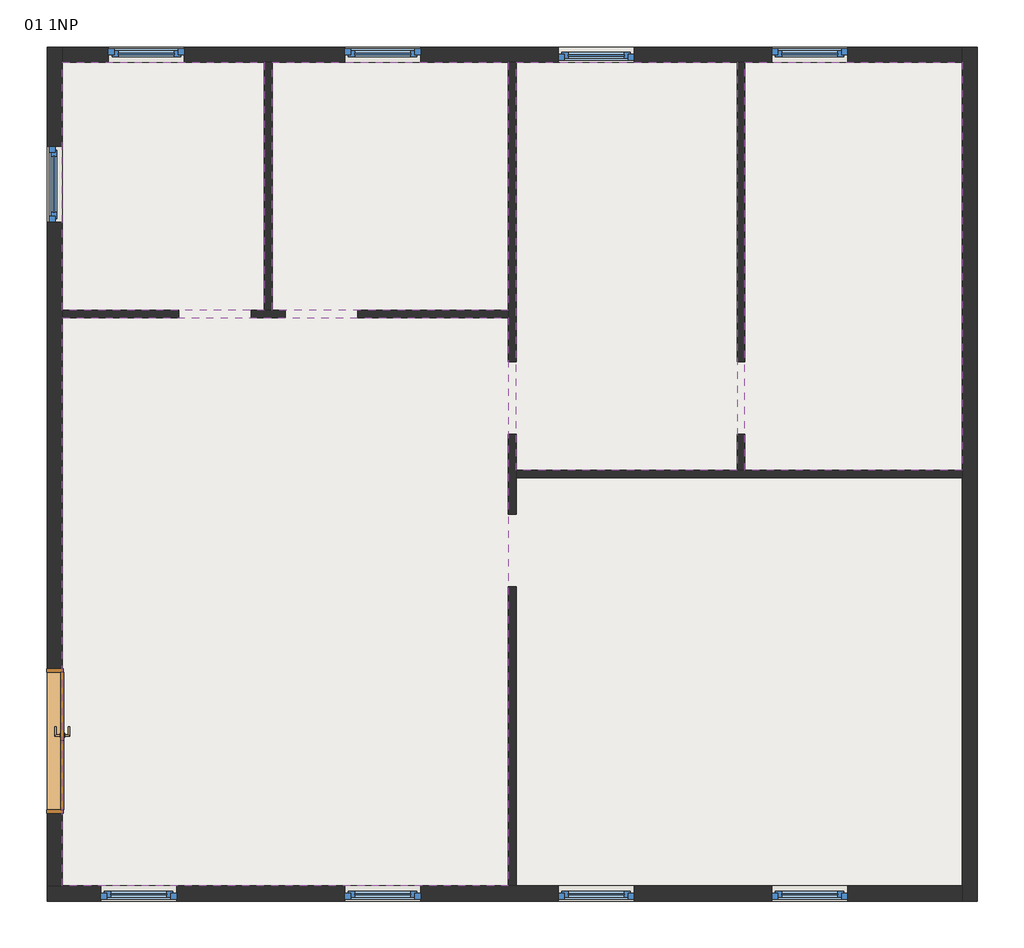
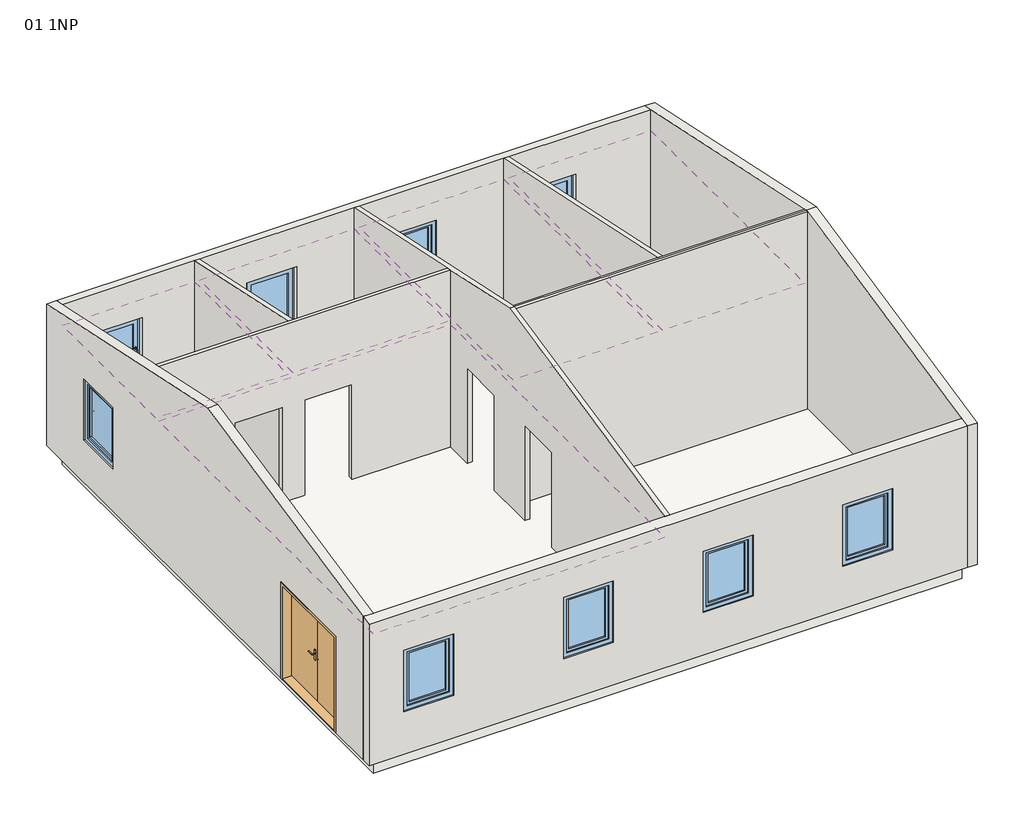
# One storey, incomplete: 9 walls, 9 windows, 6 coverings, 1 door, 1 slab.
"""IFC4 building model written with IfcOpenShell, lengths in millimetres."""

from ifc_helpers import new_model, si_unit, frame, origin, place, context, project, spatial, polyline, outline, extrude, faceted_brep, transform, mapped, element, save
from components import door_1800_x_2000_ad4d3441, window_1000x1300_1b3cc697, window_1000x1300_da663b31

model = new_model("IFC4")

# Units and contexts
model_context = context("Model", 3, world=origin())
ifc_project = project(units=[si_unit("LENGTHUNIT", "METRE", prefix="MILLI")], contexts=[model_context])

# Site, building, storey
site = spatial("IfcSite", under=ifc_project)
building = spatial("IfcBuilding", under=site)
storey = spatial("IfcBuildingStorey", under=building, Name="01 1NP", Elevation=0.0)

# Coverings
placement = place(None, origin())
element("IfcCovering", 1, ObjectType="Strop 1", at=placement, inside=storey, context=model_context, shape_type="SweptSolid", body=[
    extrude(outline(polyline([(33646.7666006, 15422.9392228), (30996.7666006, 15422.9392228), (30996.7666006, 18672.9392228), (33646.7666006, 18672.9392228), (33646.7666006, 15422.9392228)])), frame((0.0, 0.0, 2600.0), z_axis=(0.0, 0.0, 1.0), x_axis=(1.0, 0.0, 0.0)), (0.0, 0.0, 1.0), 100.0),
])
element("IfcCovering", 2, ObjectType="Strop 1", at=placement, inside=storey, context=model_context, shape_type="SweptSolid", body=[
    extrude(outline(polyline([(33646.7666006, 15422.9392228), (30996.7666006, 15422.9392228), (30996.7666006, 18672.9392228), (33646.7666006, 18672.9392228), (33646.7666006, 15422.9392228)])), frame((0.0, 0.0, 2600.0), z_axis=(0.0, 0.0, 1.0), x_axis=(1.0, 0.0, 0.0)), (0.0, 0.0, 1.0), 100.0),
])
element("IfcCovering", 3, ObjectType="Strop 1", at=placement, inside=storey, context=model_context, shape_type="SweptSolid", body=[
    extrude(outline(polyline([(33746.7666006, 15422.9392228), (33746.7666006, 18672.9392228), (36846.7666006, 18672.9392228), (36846.7666006, 15422.9392228), (33746.7666006, 15422.9392228)])), frame((0.0, 0.0, 2600.0), z_axis=(0.0, 0.0, 1.0), x_axis=(1.0, 0.0, 0.0)), (0.0, 0.0, 1.0), 100.0),
])
element("IfcCovering", 4, ObjectType="Strop 1", at=placement, inside=storey, context=model_context, shape_type="SweptSolid", body=[
    extrude(outline(polyline([(36946.7666006, 18672.9392228), (39846.7666006, 18672.9392228), (39846.7666006, 13322.9392228), (36946.7666006, 13322.9392228), (36946.7666006, 18672.9392228)])), frame((0.0, 0.0, 2600.0), z_axis=(0.0, 0.0, 1.0), x_axis=(1.0, 0.0, 0.0)), (0.0, 0.0, 1.0), 100.0),
])
element("IfcCovering", 5, ObjectType="Strop 1", at=placement, inside=storey, context=model_context, shape_type="SweptSolid", body=[
    extrude(outline(polyline([(39946.7666006, 18672.9392228), (42796.7666006, 18672.9392228), (42796.7666006, 13322.9392228), (39946.7666006, 13322.9392228), (39946.7666006, 18672.9392228)])), frame((0.0, 0.0, 2600.0), z_axis=(0.0, 0.0, 1.0), x_axis=(1.0, 0.0, 0.0)), (0.0, 0.0, 1.0), 100.0),
])
element("IfcCovering", 6, ObjectType="Strop 1", at=placement, inside=storey, context=model_context, shape_type="SweptSolid", body=[
    extrude(outline(polyline([(36846.7666006, 15322.9392228), (36846.7666006, 7872.9392228), (30996.7666006, 7872.9392228), (30996.7666006, 15322.9392228), (36846.7666006, 15322.9392228)])), frame((0.0, 0.0, 2600.0), z_axis=(0.0, 0.0, 1.0), x_axis=(1.0, 0.0, 0.0)), (0.0, 0.0, 1.0), 100.0),
])

# Door
door_1800_x_2000_shape = door_1800_x_2000_ad4d3441(model_context)
element("IfcDoor", 7, ObjectType="Dvoukridle oboustrana zaruben : 1800 x 2000", at=placement, inside=storey, context=model_context, shape_type="MappedRepresentation", body=[
    mapped(door_1800_x_2000_shape, transform((30896.7666006, 9752.9392228, 0.0), x_axis=(0.0, -1.0, 0.0), y_axis=(1.0, 0.0, 0.0), z_axis=(0.0, 0.0, 1.0))),
])

# Slab
element("IfcSlab", 8, ObjectType="Základová deska", at=placement, inside=storey, context=model_context, shape_type="SweptSolid", body=[
    extrude(outline(polyline([(30996.7666006, 7872.9392228), (30996.7666006, 18672.9392228), (42796.7666006, 18672.9392228), (42796.7666006, 7872.9392228), (30996.7666006, 7872.9392228)])), frame((0.0, 0.0, -350.0), z_axis=(0.0, 0.0, 1.0), x_axis=(1.0, 0.0, 0.0)), (0.0, 0.0, 1.0), 350.0),
])

# Walls
element("IfcWall", 9, ObjectType="Standardní 200mm", at=placement, inside=storey, context=model_context, shape_type="Brep", body=[
    faceted_brep([(30796.7666006, 7672.9392228, 0.0), (42796.7666006, 7672.9392228, 0.0), (42796.7666006, 7672.9392228, 3000.0), (30796.7666006, 7672.9392228, 3000.0), (31496.7666006, 7672.9392228, 2200.0), (32496.7666006, 7672.9392228, 2200.0), (32496.7666006, 7672.9392228, 900.0), (31496.7666006, 7672.9392228, 900.0), (35696.7666006, 7672.9392228, 900.0), (34696.7666006, 7672.9392228, 900.0), (34696.7666006, 7672.9392228, 2200.0), (35696.7666006, 7672.9392228, 2200.0), (38496.7666006, 7672.9392228, 900.0), (37496.7666006, 7672.9392228, 900.0), (37496.7666006, 7672.9392228, 2200.0), (38496.7666006, 7672.9392228, 2200.0), (41296.7666006, 7672.9392228, 900.0), (40296.7666006, 7672.9392228, 900.0), (40296.7666006, 7672.9392228, 2200.0), (41296.7666006, 7672.9392228, 2200.0), (42796.7666006, 7872.9392228, 0.0), (36946.7666006, 7872.9392228, 0.0), (36846.7666006, 7872.9392228, 0.0), (30996.7666006, 7872.9392228, 0.0), (30796.7666006, 7872.9392228, 0.0), (30796.7666006, 7872.9392228, 3042.5113123), (30996.7666006, 7872.9392228, 3042.5113123), (36846.7666006, 7872.9392228, 3042.5113123), (36946.7666006, 7872.9392228, 3042.5113123), (42796.7666006, 7872.9392228, 3042.5113123), (32496.7666006, 7872.9392228, 2200.0), (31496.7666006, 7872.9392228, 2200.0), (31496.7666006, 7872.9392228, 900.0), (32496.7666006, 7872.9392228, 900.0), (35696.7666006, 7872.9392228, 900.0), (35696.7666006, 7872.9392228, 2200.0), (34696.7666006, 7872.9392228, 2200.0), (34696.7666006, 7872.9392228, 900.0), (38496.7666006, 7872.9392228, 900.0), (38496.7666006, 7872.9392228, 2200.0), (37496.7666006, 7872.9392228, 2200.0), (37496.7666006, 7872.9392228, 900.0), (41296.7666006, 7872.9392228, 900.0), (41296.7666006, 7872.9392228, 2200.0), (40296.7666006, 7872.9392228, 2200.0), (40296.7666006, 7872.9392228, 900.0)], [[[0, 1, 2, 3], [4, 5, 6, 7], [8, 9, 10, 11], [12, 13, 14, 15], [16, 17, 18, 19]], [[20, 21, 22, 23, 24, 25, 26, 27, 28, 29], [30, 31, 32, 33], [34, 35, 36, 37], [38, 39, 40, 41], [42, 43, 44, 45]], [[1, 0, 24, 23, 22, 21, 20]], [[0, 3, 25, 24]], [[2, 1, 20, 29]], [[3, 2, 29, 28, 27, 26, 25]], [[31, 4, 7, 32]], [[4, 31, 30, 5]], [[5, 30, 33, 6]], [[6, 33, 32, 7]], [[35, 34, 8, 11]], [[36, 35, 11, 10]], [[37, 36, 10, 9]], [[34, 37, 9, 8]], [[39, 38, 12, 15]], [[40, 39, 15, 14]], [[41, 40, 14, 13]], [[38, 41, 13, 12]], [[43, 42, 16, 19]], [[44, 43, 19, 18]], [[45, 44, 18, 17]], [[42, 45, 17, 16]]]),
])
element("IfcWall", 10, ObjectType="Standardní 200mm", at=placement, inside=storey, context=model_context, shape_type="Brep", body=[
    faceted_brep([(30796.7666006, 8822.9392228, 2050.0), (30796.7666006, 8822.9392228, 0.0), (30796.7666006, 7872.9392228, 0.0), (30796.7666006, 7872.9392228, 3042.5113123), (30796.7666006, 13272.9392228, 4190.3167453), (30796.7666006, 18872.9392228, 3000.0), (30796.7666006, 18872.9392228, 0.0), (30796.7666006, 10722.9392228, 0.0), (30796.7666006, 10722.9392228, 2050.0), (30796.7666006, 16572.9392228, 900.0), (30796.7666006, 17572.9392228, 900.0), (30796.7666006, 17572.9392228, 2200.0), (30796.7666006, 16572.9392228, 2200.0), (30996.7666006, 7872.9392228, 0.0), (30996.7666006, 8822.9392228, 0.0), (30996.7666006, 8822.9392228, 2050.0), (30996.7666006, 10722.9392228, 2050.0), (30996.7666006, 10722.9392228, 0.0), (30996.7666006, 15322.9392228, 0.0), (30996.7666006, 15422.9392228, 0.0), (30996.7666006, 18672.9392228, 0.0), (30996.7666006, 18872.9392228, 0.0), (30996.7666006, 18872.9392228, 3000.0), (30996.7666006, 18672.9392228, 3042.5113123), (30996.7666006, 15422.9392228, 3733.3201377), (30996.7666006, 15322.9392228, 3754.5757939), (30996.7666006, 13272.9392228, 4190.3167453), (30996.7666006, 7872.9392228, 3042.5113123), (30996.7666006, 16572.9392228, 900.0), (30996.7666006, 16572.9392228, 2200.0), (30996.7666006, 17572.9392228, 2200.0), (30996.7666006, 17572.9392228, 900.0)], [[[0, 1, 2, 3, 4, 5, 6, 7, 8], [9, 10, 11, 12]], [[13, 14, 15, 16, 17, 18, 19, 20, 21, 22, 23, 24, 25, 26, 27], [28, 29, 30, 31]], [[2, 1, 14, 13]], [[7, 6, 21, 20, 19, 18, 17]], [[6, 5, 22, 21]], [[3, 2, 13, 27]], [[5, 4, 26, 25, 24, 23, 22]], [[4, 3, 27, 26]], [[15, 14, 1, 0]], [[16, 15, 0, 8]], [[17, 16, 8, 7]], [[29, 28, 9, 12]], [[30, 29, 12, 11]], [[31, 30, 11, 10]], [[28, 31, 10, 9]]]),
])
element("IfcWall", 11, ObjectType="Standardní 200mm", at=placement, inside=storey, context=model_context, shape_type="Brep", body=[
    faceted_brep([(42796.7666006, 18872.9392228, 0.0), (30996.7666006, 18872.9392228, 0.0), (30996.7666006, 18872.9392228, 3000.0), (42796.7666006, 18872.9392228, 3000.0), (32596.7666006, 18872.9392228, 2200.0), (31596.7666006, 18872.9392228, 2200.0), (31596.7666006, 18872.9392228, 900.0), (32596.7666006, 18872.9392228, 900.0), (35696.7666006, 18872.9392228, 900.0), (35696.7666006, 18872.9392228, 2200.0), (34696.7666006, 18872.9392228, 2200.0), (34696.7666006, 18872.9392228, 900.0), (38496.7666006, 18872.9392228, 900.0), (38496.7666006, 18872.9392228, 2200.0), (37496.7666006, 18872.9392228, 2200.0), (37496.7666006, 18872.9392228, 900.0), (41296.7666006, 18872.9392228, 900.0), (41296.7666006, 18872.9392228, 2200.0), (40296.7666006, 18872.9392228, 2200.0), (40296.7666006, 18872.9392228, 900.0), (30996.7666006, 18672.9392228, 0.0), (33646.7666006, 18672.9392228, 0.0), (33746.7666006, 18672.9392228, 0.0), (36846.7666006, 18672.9392228, 0.0), (36946.7666006, 18672.9392228, 0.0), (39846.7666006, 18672.9392228, 0.0), (39946.7666006, 18672.9392228, 0.0), (42796.7666006, 18672.9392228, 0.0), (42796.7666006, 18672.9392228, 3042.5113123), (39946.7666006, 18672.9392228, 3042.5113123), (39846.7666006, 18672.9392228, 3042.5113123), (36946.7666006, 18672.9392228, 3042.5113123), (36846.7666006, 18672.9392228, 3042.5113123), (33746.7666006, 18672.9392228, 3042.5113123), (33646.7666006, 18672.9392228, 3042.5113123), (30996.7666006, 18672.9392228, 3042.5113123), (31596.7666006, 18672.9392228, 2200.0), (32596.7666006, 18672.9392228, 2200.0), (32596.7666006, 18672.9392228, 900.0), (31596.7666006, 18672.9392228, 900.0), (35696.7666006, 18672.9392228, 900.0), (34696.7666006, 18672.9392228, 900.0), (34696.7666006, 18672.9392228, 2200.0), (35696.7666006, 18672.9392228, 2200.0), (38496.7666006, 18672.9392228, 900.0), (37496.7666006, 18672.9392228, 900.0), (37496.7666006, 18672.9392228, 2200.0), (38496.7666006, 18672.9392228, 2200.0), (41296.7666006, 18672.9392228, 900.0), (40296.7666006, 18672.9392228, 900.0), (40296.7666006, 18672.9392228, 2200.0), (41296.7666006, 18672.9392228, 2200.0)], [[[0, 1, 2, 3], [4, 5, 6, 7], [8, 9, 10, 11], [12, 13, 14, 15], [16, 17, 18, 19]], [[20, 21, 22, 23, 24, 25, 26, 27, 28, 29, 30, 31, 32, 33, 34, 35], [36, 37, 38, 39], [40, 41, 42, 43], [44, 45, 46, 47], [48, 49, 50, 51]], [[1, 0, 27, 26, 25, 24, 23, 22, 21, 20]], [[2, 1, 20, 35]], [[0, 3, 28, 27]], [[3, 2, 35, 34, 33, 32, 31, 30, 29, 28]], [[5, 36, 39, 6]], [[36, 5, 4, 37]], [[37, 4, 7, 38]], [[38, 7, 6, 39]], [[9, 8, 40, 43]], [[10, 9, 43, 42]], [[11, 10, 42, 41]], [[8, 11, 41, 40]], [[13, 12, 44, 47]], [[14, 13, 47, 46]], [[15, 14, 46, 45]], [[12, 15, 45, 44]], [[17, 16, 48, 51]], [[18, 17, 51, 50]], [[19, 18, 50, 49]], [[16, 19, 49, 48]]]),
])
element("IfcWall", 12, ObjectType="Standardní 200mm", at=placement, inside=storey, context=model_context, shape_type="Brep", body=[
    faceted_brep([(42996.7666006, 7672.9392228, 0.0), (42996.7666006, 18872.9392228, 0.0), (42996.7666006, 18872.9392228, 3000.0), (42996.7666006, 13272.9392228, 4190.3167453), (42996.7666006, 7672.9392228, 3000.0), (42796.7666006, 7672.9392228, 0.0), (42796.7666006, 7672.9392228, 3000.0), (42796.7666006, 7872.9392228, 3042.5113123), (42796.7666006, 13222.9392228, 4179.6889172), (42796.7666006, 13272.9392228, 4190.3167453), (42796.7666006, 13322.9392228, 4179.6889172), (42796.7666006, 18672.9392228, 3042.5113123), (42796.7666006, 18872.9392228, 3000.0), (42796.7666006, 18872.9392228, 0.0), (42796.7666006, 18672.9392228, 0.0), (42796.7666006, 13322.9392228, 0.0), (42796.7666006, 13222.9392228, 0.0), (42796.7666006, 7872.9392228, 0.0)], [[[0, 1, 2, 3, 4]], [[5, 6, 7, 8, 9, 10, 11, 12, 13, 14, 15, 16, 17]], [[1, 0, 5, 17, 16, 15, 14, 13]], [[0, 4, 6, 5]], [[2, 1, 13, 12]], [[4, 3, 9, 8, 7, 6]], [[3, 2, 12, 11, 10, 9]]]),
])
element("IfcWall", 13, ObjectType="Standardní 100mm", at=placement, inside=storey, context=model_context, shape_type="Brep", body=[
    faceted_brep([(36946.7666006, 7872.9392228, 0.0), (36946.7666006, 11797.9392228, 0.0), (36946.7666006, 11797.9392228, 2020.0), (36946.7666006, 12747.9392228, 2020.0), (36946.7666006, 12747.9392228, 0.0), (36946.7666006, 13222.9392228, 0.0), (36946.7666006, 13322.9392228, 0.0), (36946.7666006, 13797.9392228, 0.0), (36946.7666006, 13797.9392228, 2020.0), (36946.7666006, 14747.9392228, 2020.0), (36946.7666006, 14747.9392228, 0.0), (36946.7666006, 18672.9392228, 0.0), (36946.7666006, 18672.9392228, 3042.5113123), (36946.7666006, 13322.9392228, 4179.6889172), (36946.7666006, 13272.9392228, 4190.3167453), (36946.7666006, 13222.9392228, 4179.6889172), (36946.7666006, 7872.9392228, 3042.5113123), (36846.7666006, 11797.9392228, 2020.0), (36846.7666006, 11797.9392228, 0.0), (36846.7666006, 7872.9392228, 0.0), (36846.7666006, 7872.9392228, 3042.5113123), (36846.7666006, 13272.9392228, 4190.3167453), (36846.7666006, 15322.9392228, 3754.5757939), (36846.7666006, 15422.9392228, 3733.3201377), (36846.7666006, 18672.9392228, 3042.5113123), (36846.7666006, 18672.9392228, 0.0), (36846.7666006, 15422.9392228, 0.0), (36846.7666006, 15322.9392228, 0.0), (36846.7666006, 14747.9392228, 0.0), (36846.7666006, 14747.9392228, 2020.0), (36846.7666006, 13797.9392228, 2020.0), (36846.7666006, 13797.9392228, 0.0), (36846.7666006, 12747.9392228, 0.0), (36846.7666006, 12747.9392228, 2020.0)], [[[0, 1, 2, 3, 4, 5, 6, 7, 8, 9, 10, 11, 12, 13, 14, 15, 16]], [[17, 18, 19, 20, 21, 22, 23, 24, 25, 26, 27, 28, 29, 30, 31, 32, 33]], [[11, 10, 28, 27, 26, 25]], [[19, 18, 1, 0]], [[32, 31, 7, 6, 5, 4]], [[0, 16, 20, 19]], [[12, 11, 25, 24]], [[16, 15, 14, 21, 20]], [[14, 13, 12, 24, 23, 22, 21]], [[29, 28, 10, 9]], [[30, 29, 9, 8]], [[31, 30, 8, 7]], [[2, 1, 18, 17]], [[3, 2, 17, 33]], [[4, 3, 33, 32]]]),
])
element("IfcWall", 14, ObjectType="Standardní 100mm", at=placement, inside=storey, context=model_context, shape_type="Brep", body=[
    faceted_brep([(36946.7666006, 13222.9392228, 0.0), (42796.7666006, 13222.9392228, 0.0), (42796.7666006, 13222.9392228, 4179.6889172), (36946.7666006, 13222.9392228, 4179.6889172), (36946.7666006, 13322.9392228, 0.0), (36946.7666006, 13322.9392228, 4179.6889172), (39846.7666006, 13322.9392228, 4179.6889172), (39946.7666006, 13322.9392228, 4179.6889172), (42796.7666006, 13322.9392228, 4179.6889172), (42796.7666006, 13322.9392228, 0.0), (39946.7666006, 13322.9392228, 0.0), (39846.7666006, 13322.9392228, 0.0), (42796.7666006, 13272.9392228, 4190.3167453), (36946.7666006, 13272.9392228, 4190.3167453)], [[[0, 1, 2, 3]], [[4, 5, 6, 7, 8, 9, 10, 11]], [[1, 0, 4, 11, 10, 9]], [[2, 1, 9, 8, 12]], [[0, 3, 13, 5, 4]], [[3, 2, 12, 13]], [[12, 8, 7, 6, 5, 13]]]),
])
element("IfcWall", 15, ObjectType="Standardní 100mm", at=placement, inside=storey, context=model_context, shape_type="Brep", body=[
    faceted_brep([(34871.7666006, 15322.9392228, 2020.0), (34871.7666006, 15322.9392228, 0.0), (36846.7666006, 15322.9392228, 0.0), (36846.7666006, 15322.9392228, 3754.5757939), (30996.7666006, 15322.9392228, 3754.5757939), (30996.7666006, 15322.9392228, 0.0), (32521.7666006, 15322.9392228, 0.0), (32521.7666006, 15322.9392228, 2020.0), (33471.7666006, 15322.9392228, 2020.0), (33471.7666006, 15322.9392228, 0.0), (33921.7666006, 15322.9392228, 0.0), (33921.7666006, 15322.9392228, 2020.0), (36846.7666006, 15422.9392228, 0.0), (34871.7666006, 15422.9392228, 0.0), (34871.7666006, 15422.9392228, 2020.0), (33921.7666006, 15422.9392228, 2020.0), (33921.7666006, 15422.9392228, 0.0), (33746.7666006, 15422.9392228, 0.0), (33646.7666006, 15422.9392228, 0.0), (33471.7666006, 15422.9392228, 0.0), (33471.7666006, 15422.9392228, 2020.0), (32521.7666006, 15422.9392228, 2020.0), (32521.7666006, 15422.9392228, 0.0), (30996.7666006, 15422.9392228, 0.0), (30996.7666006, 15422.9392228, 3733.3201377), (33646.7666006, 15422.9392228, 3733.3201377), (33746.7666006, 15422.9392228, 3733.3201377), (36846.7666006, 15422.9392228, 3733.3201377)], [[[0, 1, 2, 3, 4, 5, 6, 7, 8, 9, 10, 11]], [[12, 13, 14, 15, 16, 17, 18, 19, 20, 21, 22, 23, 24, 25, 26, 27]], [[23, 22, 6, 5]], [[2, 1, 13, 12]], [[10, 9, 19, 18, 17, 16]], [[5, 4, 24, 23]], [[3, 2, 12, 27]], [[4, 3, 27, 26, 25, 24]], [[7, 6, 22, 21]], [[8, 7, 21, 20]], [[9, 8, 20, 19]], [[14, 13, 1, 0]], [[15, 14, 0, 11]], [[16, 15, 11, 10]]]),
])
element("IfcWall", 16, ObjectType="Standardní 100mm", at=placement, inside=storey, context=model_context, shape_type="SweptSolid", body=[
    extrude(outline(polyline([(18672.9392228, 0.0), (15422.9392228, 0.0), (15422.9392228, 3733.3201377), (18672.9392228, 3042.5113123), (18672.9392228, 0.0)])), frame((33646.7666006, 0.0, 0.0), z_axis=(1.0, 0.0, 0.0), x_axis=(0.0, 1.0, 0.0)), (0.0, 0.0, 1.0), 100.0),
])
element("IfcWall", 17, ObjectType="Standardní 100mm", at=placement, inside=storey, context=model_context, shape_type="SweptSolid", body=[
    extrude(outline(polyline([(18672.9392228, 0.0), (14747.9392228, 0.0), (14747.9392228, 2020.0), (13797.9392228, 2020.0), (13797.9392228, 0.0), (13322.9392228, 0.0), (13322.9392228, 4179.6889172), (18672.9392228, 3042.5113123), (18672.9392228, 0.0)])), frame((39846.7666006, 0.0, 0.0), z_axis=(1.0, 0.0, 0.0), x_axis=(0.0, 1.0, 0.0)), (0.0, 0.0, 1.0), 100.0),
])

# Windows
window_1000x1300_shape = window_1000x1300_1b3cc697(model_context)
element("IfcWindow", 18, ObjectType="Jednokridlove rovne : 1000x1300", at=placement, inside=storey, context=model_context, shape_type="MappedRepresentation", body=[
    mapped(window_1000x1300_shape, transform((32096.7666006, 18772.9392228, 0.0), x_axis=(1.0, 0.0, 0.0), y_axis=(0.0, 1.0, 0.0), z_axis=(0.0, 0.0, 1.0))),
])
element("IfcWindow", 19, ObjectType="Jednokridlove rovne : 1000x1300", at=placement, inside=storey, context=model_context, shape_type="MappedRepresentation", body=[
    mapped(window_1000x1300_shape, transform((37996.7666006, 18772.9392228, 0.0), x_axis=(-1.0, 0.0, 0.0), y_axis=(0.0, -1.0, 0.0), z_axis=(0.0, 0.0, 1.0))),
])
element("IfcWindow", 20, ObjectType="Jednokridlove rovne : 1000x1300", at=placement, inside=storey, context=model_context, shape_type="MappedRepresentation", body=[
    mapped(window_1000x1300_shape, transform((30896.7666006, 17072.9392228, 0.0), x_axis=(0.0, 1.0, 0.0), y_axis=(-1.0, 0.0, 0.0), z_axis=(0.0, 0.0, 1.0))),
])
element("IfcWindow", 21, ObjectType="Jednokridlove rovne : 1000x1300", at=placement, inside=storey, context=model_context, shape_type="MappedRepresentation", body=[
    mapped(window_1000x1300_shape, transform((35196.7666006, 7772.9392228, 0.0), x_axis=(-1.0, 0.0, 0.0), y_axis=(0.0, -1.0, 0.0), z_axis=(0.0, 0.0, 1.0))),
])
element("IfcWindow", 22, ObjectType="Jednokridlove rovne : 1000x1300", at=placement, inside=storey, context=model_context, shape_type="MappedRepresentation", body=[
    mapped(window_1000x1300_shape, transform((37996.7666006, 7772.9392228, 0.0), x_axis=(-1.0, 0.0, 0.0), y_axis=(0.0, -1.0, 0.0), z_axis=(0.0, 0.0, 1.0))),
])
element("IfcWindow", 23, ObjectType="Jednokridlove rovne : 1000x1300", at=placement, inside=storey, context=model_context, shape_type="MappedRepresentation", body=[
    mapped(window_1000x1300_shape, transform((40796.7666006, 7772.9392228, 0.0), x_axis=(-1.0, 0.0, 0.0), y_axis=(0.0, -1.0, 0.0), z_axis=(0.0, 0.0, 1.0))),
])
window_1000x1300_2_shape = window_1000x1300_da663b31(model_context)
element("IfcWindow", 24, ObjectType="Jednokridlove rovne : 1000x1300", at=placement, inside=storey, context=model_context, shape_type="MappedRepresentation", body=[
    mapped(window_1000x1300_2_shape, transform((35196.7666006, 18772.9392228, 0.0), x_axis=(-1.0, 0.0, 0.0), y_axis=(0.0, -1.0, 0.0), z_axis=(0.0, 0.0, 1.0))),
])
element("IfcWindow", 25, ObjectType="Jednokridlove rovne : 1000x1300", at=placement, inside=storey, context=model_context, shape_type="MappedRepresentation", body=[
    mapped(window_1000x1300_2_shape, transform((40796.7666006, 18772.9392228, 0.0), x_axis=(-1.0, 0.0, 0.0), y_axis=(0.0, -1.0, 0.0), z_axis=(0.0, 0.0, 1.0))),
])
element("IfcWindow", 26, ObjectType="Jednokridlove rovne : 1000x1300", at=placement, inside=storey, context=model_context, shape_type="MappedRepresentation", body=[
    mapped(window_1000x1300_2_shape, transform((31996.7666006, 7772.9392228, 0.0), x_axis=(1.0, 0.0, 0.0), y_axis=(0.0, 1.0, 0.0), z_axis=(0.0, 0.0, 1.0))),
])

save(model, "model.ifc")
